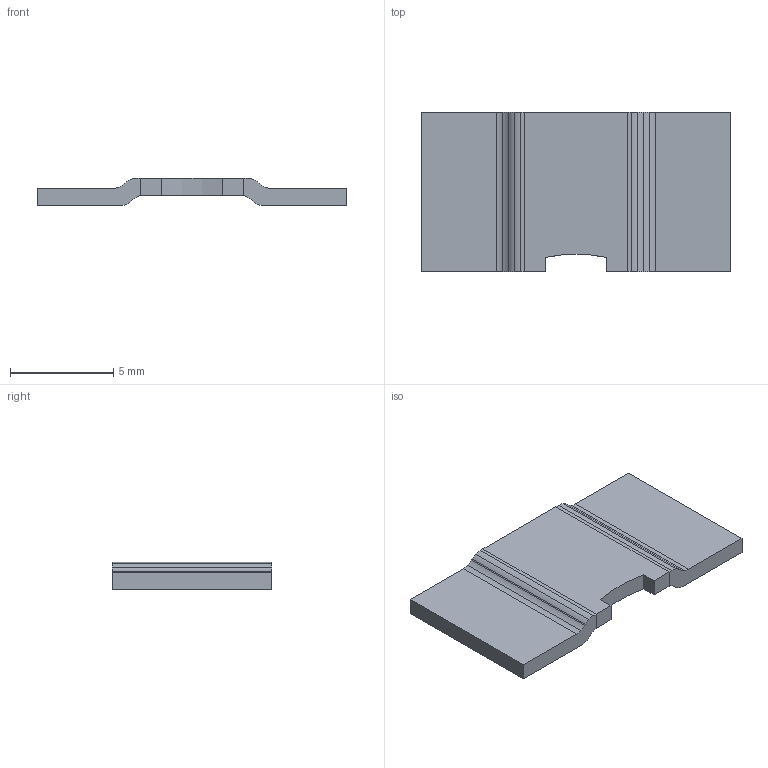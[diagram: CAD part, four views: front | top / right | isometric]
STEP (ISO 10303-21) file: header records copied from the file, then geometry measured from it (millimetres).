
FILE_DESCRIPTION (( 'STEP AP214' ), '1' );
FILE_NAME ('WSLP5931 (0.001).step', '2018-11-05T17:00:54', ( '' ), ( '' ), 'SwSTEP 2.0', 'SolidWorks 2018', '' );
FILE_SCHEMA (( 'AUTOMOTIVE_DESIGN' ));
Length unit declared in the file: millimetre
Products named in the file (1): WSLP5931 (0.001)
Bounding box: 15 x 7.75 x 1.34 mm (x, y, z)
Volume: 98 mm3; surface area: 298.1 mm2
Topology: 3 solids, 3 shells, 42 faces, 108 edges, 72 vertices
Faces by surface type: plane 27, cylinder 15
Entity records: 1334 total; most frequent: DIRECTION 224, CARTESIAN_POINT 223, ORIENTED_EDGE 216, EDGE_CURVE 108, VECTOR 78, LINE 78, AXIS2_PLACEMENT_3D 73, VERTEX_POINT 72
